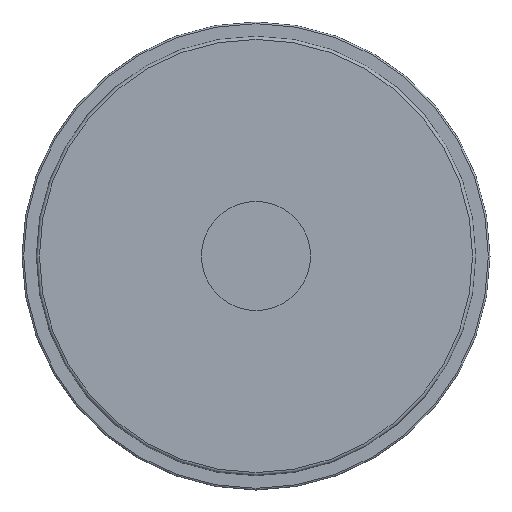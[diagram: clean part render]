
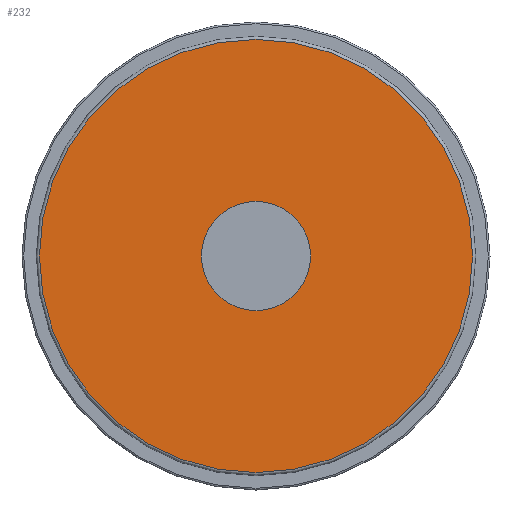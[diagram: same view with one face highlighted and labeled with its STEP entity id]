
A CAD part, left-side view. The second image highlights one B-rep face of the part: STEP entity #232.
In plain terms, the highlighted planar face has unit normal (-1, 0, 0).
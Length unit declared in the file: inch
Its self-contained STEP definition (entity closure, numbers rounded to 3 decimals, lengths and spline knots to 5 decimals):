
#46=FACE_BOUND('',#75,.T.);
#52=PLANE('',#281);
#62=FACE_OUTER_BOUND('',#74,.T.);
#74=EDGE_LOOP('',(#193,#194));
#75=EDGE_LOOP('',(#195));
#89=CIRCLE('',#258,0.525);
#103=CIRCLE('',#277,2.0825);
#104=CIRCLE('',#278,2.0825);
#111=VERTEX_POINT('',#404);
#124=VERTEX_POINT('',#437);
#125=VERTEX_POINT('',#439);
#132=EDGE_CURVE('',#111,#111,#89,.T.);
#147=EDGE_CURVE('',#124,#125,#103,.T.);
#148=EDGE_CURVE('',#125,#124,#104,.T.);
#193=ORIENTED_EDGE('',*,*,#148,.F.);
#194=ORIENTED_EDGE('',*,*,#147,.F.);
#195=ORIENTED_EDGE('',*,*,#132,.T.);
#232=ADVANCED_FACE('',(#62,#46),#52,.T.);
#258=AXIS2_PLACEMENT_3D('',#406,#309,#310);
#277=AXIS2_PLACEMENT_3D('',#440,#348,#349);
#278=AXIS2_PLACEMENT_3D('',#441,#350,#351);
#281=AXIS2_PLACEMENT_3D('',#445,#357,#358);
#309=DIRECTION('center_axis',(1.,0.,0.));
#310=DIRECTION('ref_axis',(0.,0.,-1.));
#348=DIRECTION('center_axis',(1.,0.,0.));
#349=DIRECTION('ref_axis',(0.,-1.,0.));
#350=DIRECTION('center_axis',(1.,0.,0.));
#351=DIRECTION('ref_axis',(0.,-1.,0.));
#357=DIRECTION('center_axis',(-1.,0.,0.));
#358=DIRECTION('ref_axis',(0.,0.,1.));
#404=CARTESIAN_POINT('',(0.,0.,0.525));
#406=CARTESIAN_POINT('Origin',(0.,0.,0.));
#437=CARTESIAN_POINT('',(0.,0.,2.0825));
#439=CARTESIAN_POINT('',(0.,2.0825,0.));
#440=CARTESIAN_POINT('Origin',(0.,0.,0.));
#441=CARTESIAN_POINT('Origin',(0.,0.,0.));
#445=CARTESIAN_POINT('Origin',(0.,2.1125,0.));
